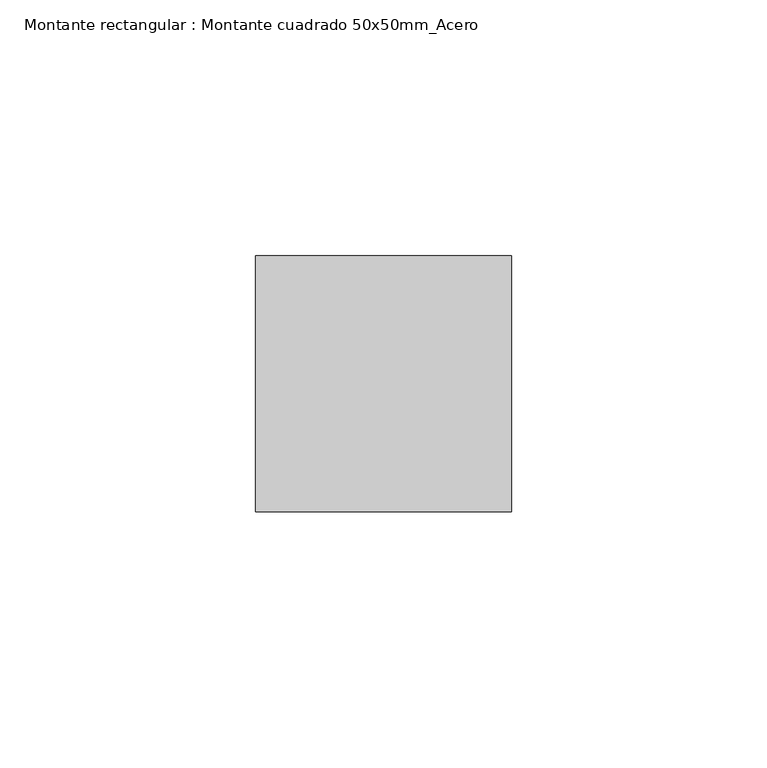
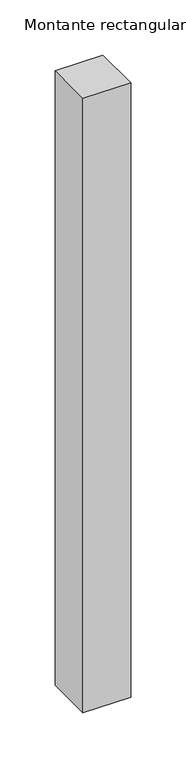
"""IFC4 building model written with IfcOpenShell, lengths in millimetres: member geometry, Montante rectangular : Montante cuadrado 50x50mm_Acero."""

from ifc_helpers import new_model, si_unit, frame, origin, place, context, project, spatial, polyline, outline, extrude, source, transform, mapped, element, save


def montante_rectangular_montante_cuadrado_50x50mm_acero_c8872730(model_context):
    return source(origin(), model_context, "Body", "SweptSolid", [
        extrude(outline(polyline([(-50.0, 0.0), (-50.0, 50.0), (0.0, 50.0), (0.0, 0.0), (-50.0, 0.0)])), frame((0.0, 0.0, -680.0), z_axis=(0.0, 0.0, 1.0), x_axis=(1.0, 0.0, 0.0)), (0.0, 0.0, 1.0), 680.0),
    ])


if __name__ == "__main__":
    model = new_model("IFC4")
    model_context = context("Model", 3, world=origin())
    ifc_project = project(units=[si_unit("LENGTHUNIT", "METRE", prefix="MILLI")], contexts=[model_context])
    site = spatial("IfcSite", under=ifc_project)
    building = spatial("IfcBuilding", under=site)
    placement = place(None, origin())
    montante_rectangular_montante_cuadrado_50x50mm_acero_shape = montante_rectangular_montante_cuadrado_50x50mm_acero_c8872730(model_context)
    element("IfcMember", 1, ObjectType="Montante rectangular : Montante cuadrado 50x50mm_Acero", at=placement, inside=building, context=model_context, shape_type="MappedRepresentation", body=[
        mapped(montante_rectangular_montante_cuadrado_50x50mm_acero_shape, transform((0.0, 0.0, 0.0), x_axis=(1.0, 0.0, 0.0), y_axis=(0.0, 1.0, 0.0), z_axis=(0.0, 0.0, 1.0))),
    ])
    save(model, "model.ifc")
